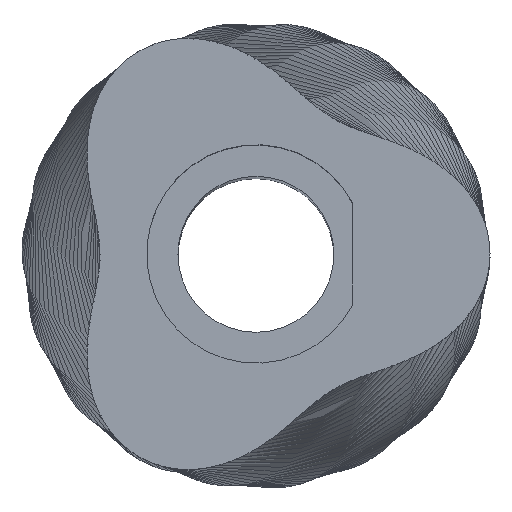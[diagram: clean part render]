
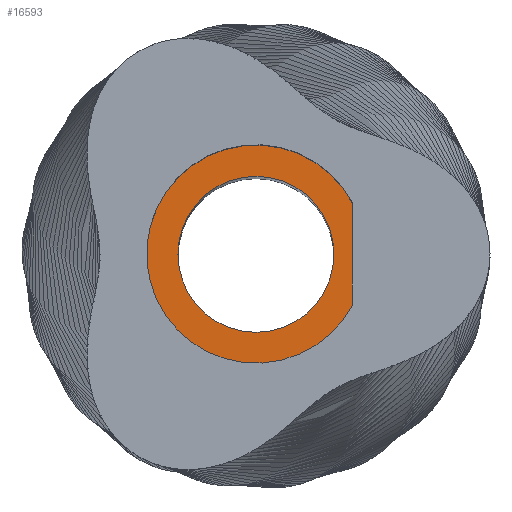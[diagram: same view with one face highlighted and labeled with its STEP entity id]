
A CAD part, top view. The second image highlights one B-rep face of the part: STEP entity #16593.
In plain terms, the highlighted planar face has unit normal (0, 0, 1).
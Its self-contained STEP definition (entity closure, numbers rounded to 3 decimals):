
#10853 = CYLINDRICAL_SURFACE('',#10854,11.2);
#10854 = AXIS2_PLACEMENT_3D('',#10855,#10856,#10857);
#10855 = CARTESIAN_POINT('',(0.,0.,159.6));
#10856 = DIRECTION('',(-0.,-0.,-1.));
#10857 = DIRECTION('',(1.,0.,0.));
#10879 = PLANE('',#10880);
#10880 = AXIS2_PLACEMENT_3D('',#10881,#10882,#10883);
#10881 = CARTESIAN_POINT('',(9.9,20.,159.6));
#10882 = DIRECTION('',(1.,0.,-0.));
#10883 = DIRECTION('',(0.,-1.,0.));
#16457 = EDGE_CURVE('',#16458,#16460,#16462,.T.);
#16458 = VERTEX_POINT('',#16459);
#16459 = CARTESIAN_POINT('',(9.9,5.237,159.6));
#16460 = VERTEX_POINT('',#16461);
#16461 = CARTESIAN_POINT('',(9.9,-5.237,159.6));
#16462 = SURFACE_CURVE('',#16463,(#16468,#16475),.PCURVE_S1.);
#16463 = CIRCLE('',#16464,11.2);
#16464 = AXIS2_PLACEMENT_3D('',#16465,#16466,#16467);
#16465 = CARTESIAN_POINT('',(0.,0.,159.6));
#16466 = DIRECTION('',(0.,0.,1.));
#16467 = DIRECTION('',(1.,0.,0.));
#16468 = PCURVE('',#10853,#16469);
#16469 = DEFINITIONAL_REPRESENTATION('',(#16470),#16474);
#16470 = LINE('',#16471,#16472);
#16471 = CARTESIAN_POINT('',(-0.,0.));
#16472 = VECTOR('',#16473,1.);
#16473 = DIRECTION('',(-1.,0.));
#16474 = ( GEOMETRIC_REPRESENTATION_CONTEXT(2) 
PARAMETRIC_REPRESENTATION_CONTEXT() REPRESENTATION_CONTEXT('2D SPACE',''
  ) );
#16475 = PCURVE('',#16476,#16481);
#16476 = PLANE('',#16477);
#16477 = AXIS2_PLACEMENT_3D('',#16478,#16479,#16480);
#16478 = CARTESIAN_POINT('',(0.,0.,
    159.6));
#16479 = DIRECTION('',(0.,0.,1.));
#16480 = DIRECTION('',(1.,0.,-0.));
#16481 = DEFINITIONAL_REPRESENTATION('',(#16482),#16486);
#16482 = CIRCLE('',#16483,11.2);
#16483 = AXIS2_PLACEMENT_2D('',#16484,#16485);
#16484 = CARTESIAN_POINT('',(0.,0.));
#16485 = DIRECTION('',(1.,0.));
#16486 = ( GEOMETRIC_REPRESENTATION_CONTEXT(2) 
PARAMETRIC_REPRESENTATION_CONTEXT() REPRESENTATION_CONTEXT('2D SPACE',''
  ) );
#16530 = EDGE_CURVE('',#16458,#16460,#16531,.T.);
#16531 = SURFACE_CURVE('',#16532,(#16536,#16543),.PCURVE_S1.);
#16532 = LINE('',#16533,#16534);
#16533 = CARTESIAN_POINT('',(9.9,20.,159.6));
#16534 = VECTOR('',#16535,1.);
#16535 = DIRECTION('',(0.,-1.,0.));
#16536 = PCURVE('',#10879,#16537);
#16537 = DEFINITIONAL_REPRESENTATION('',(#16538),#16542);
#16538 = LINE('',#16539,#16540);
#16539 = CARTESIAN_POINT('',(0.,0.));
#16540 = VECTOR('',#16541,1.);
#16541 = DIRECTION('',(1.,0.));
#16542 = ( GEOMETRIC_REPRESENTATION_CONTEXT(2) 
PARAMETRIC_REPRESENTATION_CONTEXT() REPRESENTATION_CONTEXT('2D SPACE',''
  ) );
#16543 = PCURVE('',#16476,#16544);
#16544 = DEFINITIONAL_REPRESENTATION('',(#16545),#16549);
#16545 = LINE('',#16546,#16547);
#16546 = CARTESIAN_POINT('',(9.9,20.));
#16547 = VECTOR('',#16548,1.);
#16548 = DIRECTION('',(0.,-1.));
#16549 = ( GEOMETRIC_REPRESENTATION_CONTEXT(2) 
PARAMETRIC_REPRESENTATION_CONTEXT() REPRESENTATION_CONTEXT('2D SPACE',''
  ) );
#16582 = CYLINDRICAL_SURFACE('',#16583,8.);
#16583 = AXIS2_PLACEMENT_3D('',#16584,#16585,#16586);
#16584 = CARTESIAN_POINT('',(0.,0.,-1.));
#16585 = DIRECTION('',(-0.,-0.,-1.));
#16586 = DIRECTION('',(1.,0.,0.));
#16593 = ADVANCED_FACE('',(#16594,#16598),#16476,.T.);
#16594 = FACE_BOUND('',#16595,.T.);
#16595 = EDGE_LOOP('',(#16596,#16597));
#16596 = ORIENTED_EDGE('',*,*,#16530,.F.);
#16597 = ORIENTED_EDGE('',*,*,#16457,.T.);
#16598 = FACE_BOUND('',#16599,.T.);
#16599 = EDGE_LOOP('',(#16600));
#16600 = ORIENTED_EDGE('',*,*,#16601,.T.);
#16601 = EDGE_CURVE('',#16602,#16602,#16604,.T.);
#16602 = VERTEX_POINT('',#16603);
#16603 = CARTESIAN_POINT('',(8.,0.,159.6));
#16604 = SURFACE_CURVE('',#16605,(#16610,#16621),.PCURVE_S1.);
#16605 = CIRCLE('',#16606,8.);
#16606 = AXIS2_PLACEMENT_3D('',#16607,#16608,#16609);
#16607 = CARTESIAN_POINT('',(0.,0.,159.6));
#16608 = DIRECTION('',(0.,0.,-1.));
#16609 = DIRECTION('',(1.,0.,0.));
#16610 = PCURVE('',#16476,#16611);
#16611 = DEFINITIONAL_REPRESENTATION('',(#16612),#16620);
#16612 = ( BOUNDED_CURVE() B_SPLINE_CURVE(2,(#16613,#16614,#16615,#16616
    ,#16617,#16618,#16619),.UNSPECIFIED.,.T.,.F.) 
B_SPLINE_CURVE_WITH_KNOTS((1,2,2,2,2,1),(-2.094,0.,
    2.094,4.189,6.283,8.378),
.UNSPECIFIED.) CURVE() GEOMETRIC_REPRESENTATION_ITEM() 
RATIONAL_B_SPLINE_CURVE((1.,0.5,1.,0.5,1.,0.5,1.)) REPRESENTATION_ITEM(
  '') );
#16613 = CARTESIAN_POINT('',(8.,0.));
#16614 = CARTESIAN_POINT('',(8.,-13.856));
#16615 = CARTESIAN_POINT('',(-4.,-6.928));
#16616 = CARTESIAN_POINT('',(-16.,0.));
#16617 = CARTESIAN_POINT('',(-4.,6.928));
#16618 = CARTESIAN_POINT('',(8.,13.856));
#16619 = CARTESIAN_POINT('',(8.,0.));
#16620 = ( GEOMETRIC_REPRESENTATION_CONTEXT(2) 
PARAMETRIC_REPRESENTATION_CONTEXT() REPRESENTATION_CONTEXT('2D SPACE',''
  ) );
#16621 = PCURVE('',#16582,#16622);
#16622 = DEFINITIONAL_REPRESENTATION('',(#16623),#16627);
#16623 = LINE('',#16624,#16625);
#16624 = CARTESIAN_POINT('',(-6.283,-160.6));
#16625 = VECTOR('',#16626,1.);
#16626 = DIRECTION('',(1.,-0.));
#16627 = ( GEOMETRIC_REPRESENTATION_CONTEXT(2) 
PARAMETRIC_REPRESENTATION_CONTEXT() REPRESENTATION_CONTEXT('2D SPACE',''
  ) );
